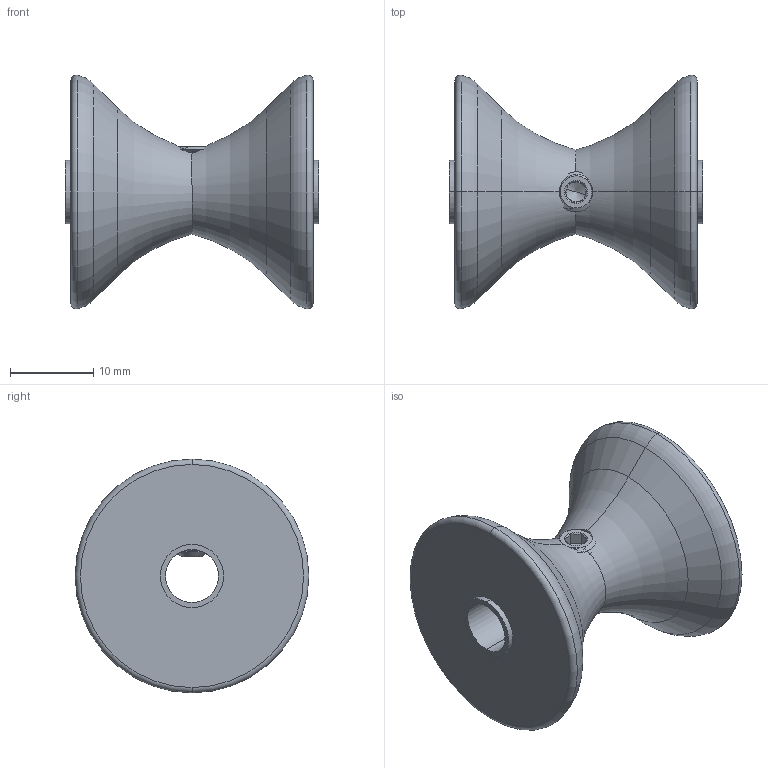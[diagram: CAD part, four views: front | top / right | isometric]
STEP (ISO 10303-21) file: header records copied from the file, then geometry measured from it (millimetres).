
FILE_DESCRIPTION (( 'STEP AP203' ), '1' );
FILE_NAME ('615450 assembly.STEP', '2016-08-04T18:45:54', ( '' ), ( '' ), 'SwSTEP 2.0', 'SolidWorks 2014', '' );
FILE_SCHEMA (( 'CONFIG_CONTROL_DESIGN' ));
Length unit declared in the file: inch
Products named in the file (3): 632134_91375A436; 615450; 615450 assembly
Assembly tree (2 placements, depth 2):
  615450 assembly
    615450
    632134_91375A436
Bounding box: 30.48 x 28.08 x 28.08 mm (x, y, z)
Volume: 7649 mm3; surface area: 3917.4 mm2
Topology: 2 solids, 2 shells, 66 faces, 149 edges, 84 vertices
Faces by surface type: cone 20, plane 17, cylinder 14, torus 12, bspline 3
Entity records: 2993 total; most frequent: CARTESIAN_POINT 1288, DIRECTION 305, ORIENTED_EDGE 290, EDGE_CURVE 145, AXIS2_PLACEMENT_3D 130, VERTEX_POINT 84, EDGE_LOOP 71, FACE_OUTER_BOUND 66
